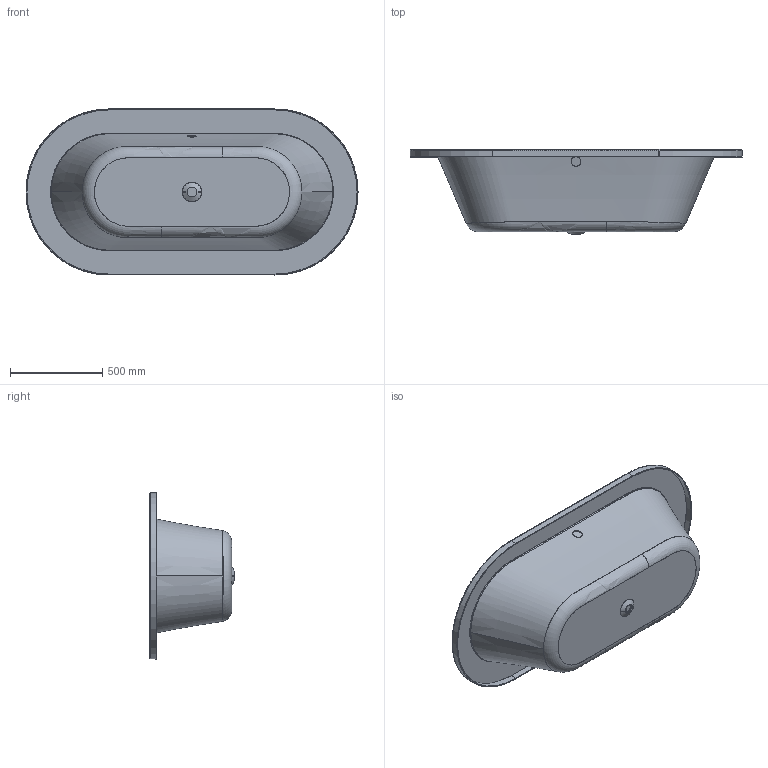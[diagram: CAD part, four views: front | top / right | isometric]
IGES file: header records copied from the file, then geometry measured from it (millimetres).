
Start section: SolidWorks IGES file using analytic representation for surfaces
Global section: file name: D:\Users\M.Szymanski\Desktop\Wanny\Philippe Starck\03. do przegrania\WO_Philippe Starck 180x90 Edition 1.IGS; native system: SolidWorks 2011; preprocessor: SolidWorks 2011; author: M.Szymanski; date: 180724.114530; units: millimetre
Bounding box: 1800 x 460.21 x 900 mm (x, y, z)
Surface area: 5391329.7 mm2 (no closed solid volume)
Topology: 0 solids, 0 shells, 53 faces, 1374 edges, 1372 vertices
Faces by surface type: bspline 31, revolution 22
